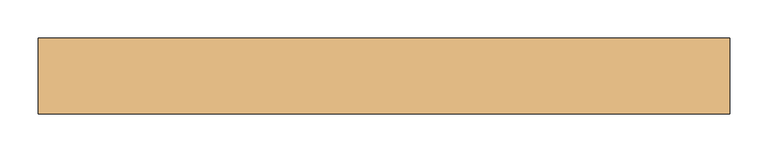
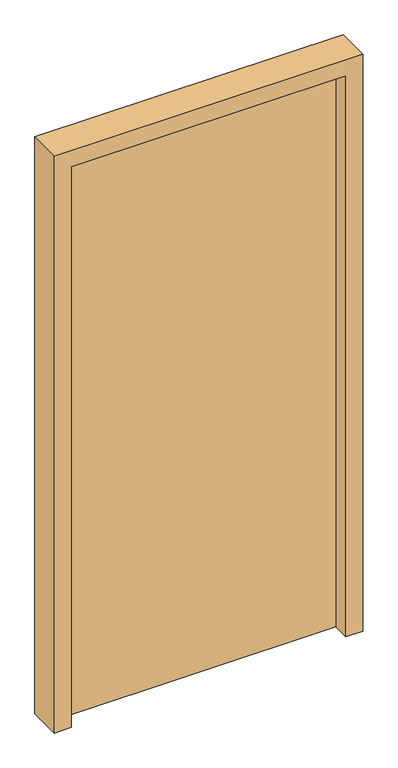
"""IFC4 building model written with IfcOpenShell, lengths in millimetres: door geometry, (Dr)_ДУ(распашная)_1Ст_Прямоугольная : (Вн)_ДГ(0.91х1.8(h))."""

from ifc_helpers import new_model, si_unit, frame, origin, origin_with_axes, place, context, project, spatial, polyline, outline, extrude, source, transform, mapped, element, save


def door_237e380f(model_context):
    return source(origin(), model_context, "Body", "SweptSolid", [
        extrude(outline(polyline([(-405.0, 60.0), (405.0, 60.0), (405.0, 10.0), (-405.0, 10.0), (-405.0, 60.0)])), origin_with_axes(), (0.0, 0.0, 1.0), 1750.0),
        extrude(outline(polyline([(0.0, -455.0), (0.0, -405.0), (1750.0, -405.0), (1750.0, 405.0), (0.0, 405.0), (0.0, 455.0), (1800.0, 455.0), (1800.0, -455.0), (0.0, -455.0)])), frame((0.0, -40.0, 0.0), z_axis=(0.0, 1.0, 0.0), x_axis=(0.0, 0.0, 1.0)), (0.0, 0.0, 1.0), 100.0),
    ])


if __name__ == "__main__":
    model = new_model("IFC4")
    model_context = context("Model", 3, world=origin())
    ifc_project = project(units=[si_unit("LENGTHUNIT", "METRE", prefix="MILLI")], contexts=[model_context])
    site = spatial("IfcSite", under=ifc_project)
    building = spatial("IfcBuilding", under=site)
    placement = place(None, origin())
    door_shape = door_237e380f(model_context)
    element("IfcDoor", 1, ObjectType="(Dr)_ДУ(распашная)_1Ст_Прямоугольная : (Вн)_ДГ(0.91х1.8(h))", at=placement, inside=building, context=model_context, shape_type="MappedRepresentation", body=[
        mapped(door_shape, transform((0.0, 0.0, 0.0), x_axis=(1.0, 0.0, 0.0), y_axis=(0.0, 1.0, 0.0), z_axis=(0.0, 0.0, 1.0))),
    ])
    save(model, "model.ifc")
